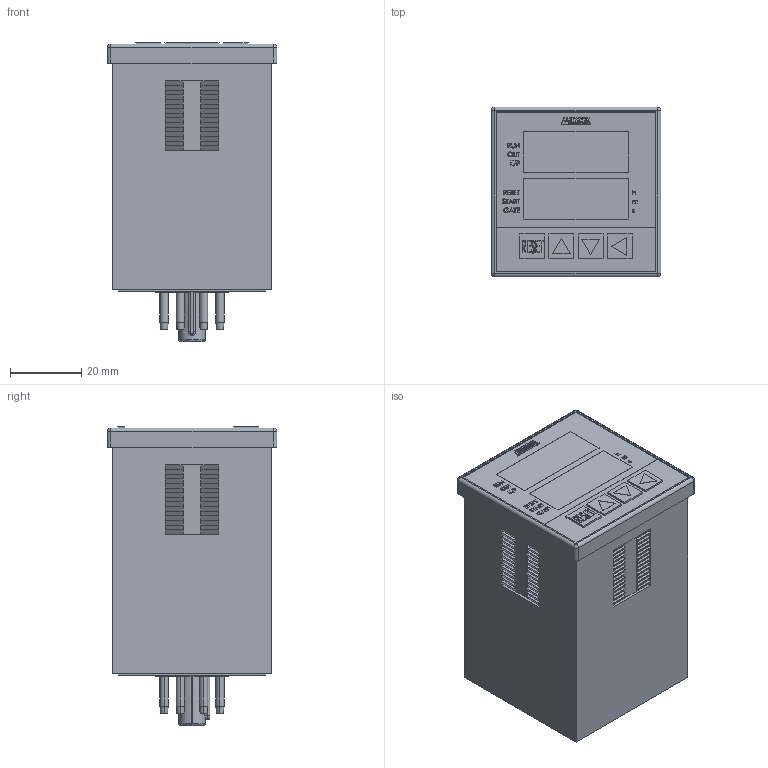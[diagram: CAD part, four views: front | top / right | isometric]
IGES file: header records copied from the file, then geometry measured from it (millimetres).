
Start section: SolidWorks IGES file using analytic representation for surfaces
Global section: file name: D:\X - Arquivos\PROEX\Empresas\P11 - METALTEX\01 - Produtos\IGES\6ª remessa\2ª etapa\TD4S-8A.IGS; native system: SolidWorks 2012; preprocessor: SolidWorks 2012; author: Usuario; date: 190213.183045; units: millimetre
Bounding box: 47.8 x 47.8 x 84.15 mm (x, y, z)
Surface area: 19259.5 mm2 (no closed solid volume)
Topology: 0 solids, 0 shells, 1201 faces, 8430 edges, 8426 vertices
Faces by surface type: bspline 1126, revolution 75
